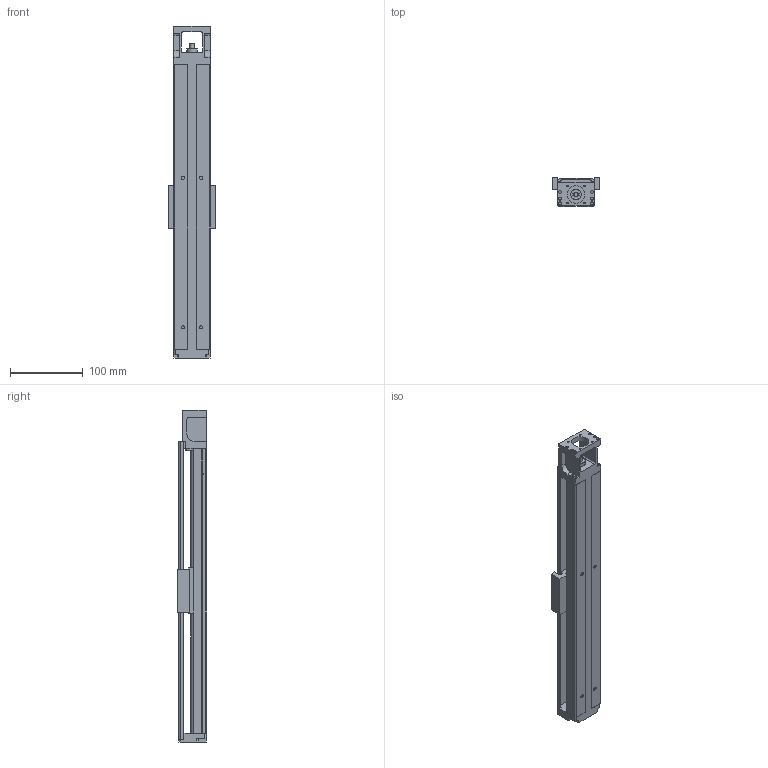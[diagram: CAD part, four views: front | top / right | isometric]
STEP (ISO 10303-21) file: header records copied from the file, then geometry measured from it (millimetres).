
FILE_DESCRIPTION (( 'STEP AP203' ), '1' );
FILE_NAME ('GSX50C-300-LL1205-P7.STEP', '2013-11-02T01:46:23', ( '微软用户' ), ( '微软中国' ), 'SwSTEP 2.0', 'SolidWorks 2010', '' );
FILE_SCHEMA (( 'CONFIG_CONTROL_DESIGN' ));
Length unit declared in the file: millimetre
Products named in the file (1): GSX50C-300-LL1205-P7
Bounding box: 65 x 40 x 455 mm (x, y, z)
Volume: 394753.4 mm3; surface area: 161561.2 mm2
Topology: 3 solids, 8 shells, 377 faces, 977 edges, 610 vertices
Faces by surface type: plane 170, cylinder 159, cone 48
Entity records: 11370 total; most frequent: DIRECTION 2005, CARTESIAN_POINT 1973, ORIENTED_EDGE 1866, EDGE_CURVE 933, AXIS2_PLACEMENT_3D 706, VERTEX_POINT 610, VECTOR 593, LINE 593
